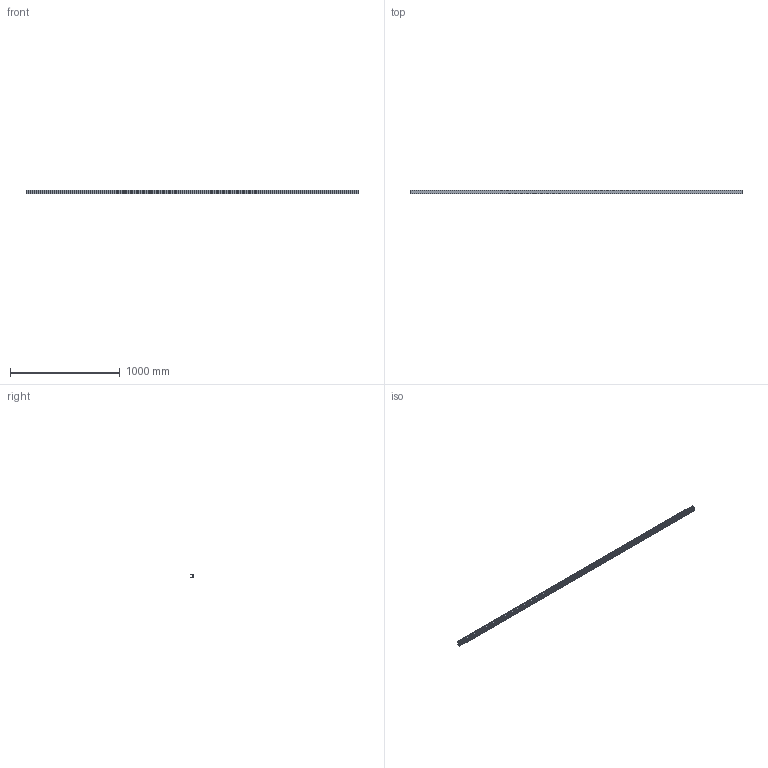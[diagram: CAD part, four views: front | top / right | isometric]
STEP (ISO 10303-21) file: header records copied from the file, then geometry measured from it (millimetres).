
FILE_DESCRIPTION (( 'STEP AP203' ), '1' );
FILE_NAME ('3535 Profile.STEP', '2026-04-20T12:30:07', ( '' ), ( '' ), 'SwSTEP 2.0', 'SolidWorks 2025', '' );
FILE_SCHEMA (( 'CONFIG_CONTROL_DESIGN' ));
Length unit declared in the file: millimetre
Products named in the file (1): 3535 Profile
Bounding box: 3020 x 35 x 35 mm (x, y, z)
Volume: 564437.1 mm3; surface area: 930737.8 mm2
Topology: 1 solids, 1 shells, 183 faces, 543 edges, 362 vertices
Faces by surface type: plane 95, cylinder 88
Entity records: 6250 total; most frequent: CARTESIAN_POINT 1089, DIRECTION 1087, ORIENTED_EDGE 1086, EDGE_CURVE 543, LINE 367, VECTOR 367, VERTEX_POINT 362, AXIS2_PLACEMENT_3D 360
